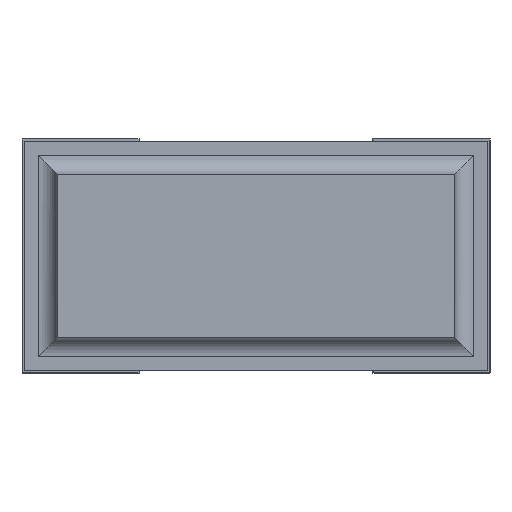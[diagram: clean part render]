
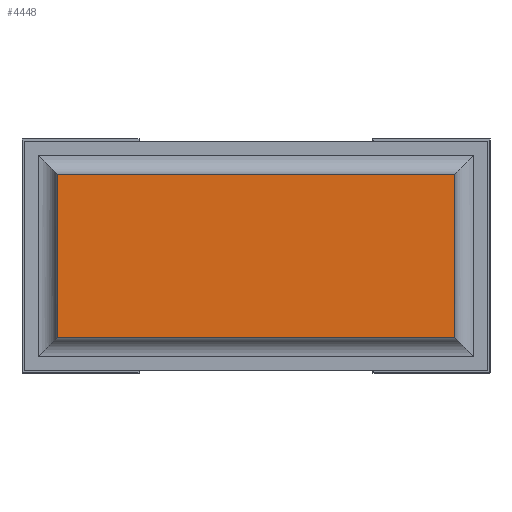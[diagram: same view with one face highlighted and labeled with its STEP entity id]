
A CAD part, front view. The second image highlights one B-rep face of the part: STEP entity #4448.
In plain terms, the highlighted planar face has unit normal (0, -1, 0).
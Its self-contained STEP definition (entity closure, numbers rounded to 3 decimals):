
#274=FACE_OUTER_BOUND('',#519,.T.);
#519=EDGE_LOOP('',(#3425,#3426,#3427,#3428));
#895=LINE('',#6727,#1457);
#899=LINE('',#6741,#1461);
#908=LINE('',#6757,#1470);
#909=LINE('',#6759,#1471);
#1457=VECTOR('',#5452,10.);
#1461=VECTOR('',#5464,10.);
#1470=VECTOR('',#5479,10.);
#1471=VECTOR('',#5482,10.);
#1971=VERTEX_POINT('',#6723);
#1972=VERTEX_POINT('',#6725);
#1977=VERTEX_POINT('',#6738);
#1978=VERTEX_POINT('',#6740);
#2485=EDGE_CURVE('',#1971,#1972,#895,.T.);
#2491=EDGE_CURVE('',#1977,#1978,#899,.T.);
#2500=EDGE_CURVE('',#1971,#1977,#908,.T.);
#2501=EDGE_CURVE('',#1978,#1972,#909,.T.);
#3425=ORIENTED_EDGE('',*,*,#2491,.F.);
#3426=ORIENTED_EDGE('',*,*,#2500,.F.);
#3427=ORIENTED_EDGE('',*,*,#2485,.T.);
#3428=ORIENTED_EDGE('',*,*,#2501,.F.);
#4239=PLANE('',#4763);
#4448=ADVANCED_FACE('',(#274),#4239,.T.);
#4763=AXIS2_PLACEMENT_3D('',#6758,#5480,#5481);
#5452=DIRECTION('',(0.,0.,-1.));
#5464=DIRECTION('',(0.,0.,-1.));
#5479=DIRECTION('',(1.,0.,0.));
#5480=DIRECTION('center_axis',(0.,-1.,0.));
#5481=DIRECTION('ref_axis',(0.,0.,-1.));
#5482=DIRECTION('',(-1.,0.,0.));
#6723=CARTESIAN_POINT('',(0.075,0.,0.425));
#6725=CARTESIAN_POINT('',(0.075,0.,0.075));
#6727=CARTESIAN_POINT('',(0.075,0.,0.425));
#6738=CARTESIAN_POINT('',(0.925,0.,0.425));
#6740=CARTESIAN_POINT('',(0.925,0.,0.075));
#6741=CARTESIAN_POINT('',(0.925,0.,0.425));
#6757=CARTESIAN_POINT('',(0.075,0.,0.425));
#6758=CARTESIAN_POINT('Origin',(0.926,0.,0.25));
#6759=CARTESIAN_POINT('',(0.925,0.,0.075));
